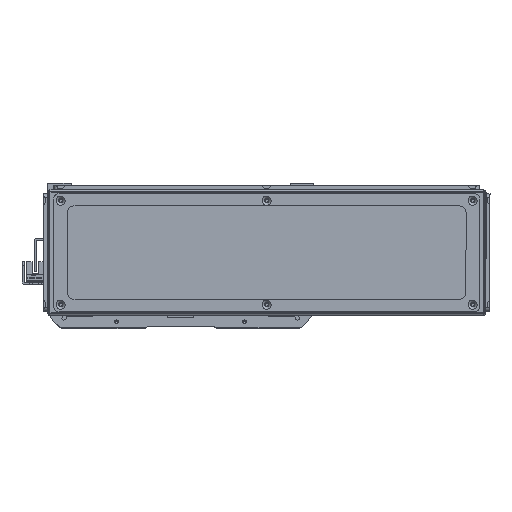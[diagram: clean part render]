
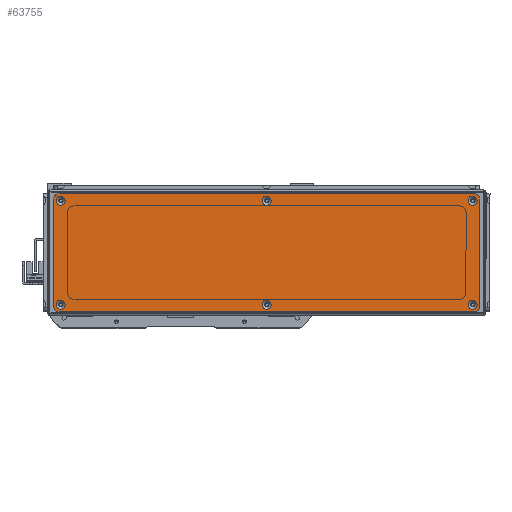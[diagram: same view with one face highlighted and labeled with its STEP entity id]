
A CAD part, front view. The second image highlights one B-rep face of the part: STEP entity #63755.
In plain terms, the highlighted planar face has unit normal (0, -1, 0).
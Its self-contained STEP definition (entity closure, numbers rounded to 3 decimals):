
#629=FACE_BOUND('',#11368,.T.);
#630=FACE_BOUND('',#11369,.T.);
#631=FACE_BOUND('',#11370,.T.);
#632=FACE_BOUND('',#11371,.T.);
#633=FACE_BOUND('',#11372,.T.);
#634=FACE_BOUND('',#11373,.T.);
#3693=PLANE('',#68543);
#7742=FACE_OUTER_BOUND('',#11367,.T.);
#11367=EDGE_LOOP('',(#59351,#59352,#59353,#59354,#59355,#59356,#59357,#59358));
#11368=EDGE_LOOP('',(#59359));
#11369=EDGE_LOOP('',(#59360));
#11370=EDGE_LOOP('',(#59361));
#11371=EDGE_LOOP('',(#59362));
#11372=EDGE_LOOP('',(#59363));
#11373=EDGE_LOOP('',(#59364));
#18565=LINE('',#104948,#25880);
#18566=LINE('',#104952,#25881);
#18567=LINE('',#104956,#25882);
#18568=LINE('',#104959,#25883);
#25880=VECTOR('',#84309,10.);
#25881=VECTOR('',#84312,10.);
#25882=VECTOR('',#84315,10.);
#25883=VECTOR('',#84318,10.);
#27492=CIRCLE('',#68511,3.45);
#27495=CIRCLE('',#68516,3.45);
#27498=CIRCLE('',#68521,3.45);
#27501=CIRCLE('',#68526,3.45);
#27504=CIRCLE('',#68531,3.45);
#27507=CIRCLE('',#68536,3.45);
#27510=CIRCLE('',#68541,3.);
#27512=CIRCLE('',#68544,3.);
#27513=CIRCLE('',#68545,3.);
#27514=CIRCLE('',#68546,3.);
#33264=VERTEX_POINT('',#104878);
#33267=VERTEX_POINT('',#104888);
#33270=VERTEX_POINT('',#104898);
#33273=VERTEX_POINT('',#104908);
#33276=VERTEX_POINT('',#104918);
#33279=VERTEX_POINT('',#104928);
#33282=VERTEX_POINT('',#104938);
#33283=VERTEX_POINT('',#104939);
#33286=VERTEX_POINT('',#104947);
#33287=VERTEX_POINT('',#104949);
#33288=VERTEX_POINT('',#104951);
#33289=VERTEX_POINT('',#104953);
#33290=VERTEX_POINT('',#104955);
#33291=VERTEX_POINT('',#104957);
#42015=EDGE_CURVE('',#33264,#33264,#27492,.T.);
#42020=EDGE_CURVE('',#33267,#33267,#27495,.T.);
#42025=EDGE_CURVE('',#33270,#33270,#27498,.T.);
#42030=EDGE_CURVE('',#33273,#33273,#27501,.T.);
#42035=EDGE_CURVE('',#33276,#33276,#27504,.T.);
#42040=EDGE_CURVE('',#33279,#33279,#27507,.T.);
#42045=EDGE_CURVE('',#33282,#33283,#27510,.T.);
#42049=EDGE_CURVE('',#33282,#33286,#18565,.T.);
#42050=EDGE_CURVE('',#33287,#33286,#27512,.T.);
#42051=EDGE_CURVE('',#33287,#33288,#18566,.T.);
#42052=EDGE_CURVE('',#33289,#33288,#27513,.T.);
#42053=EDGE_CURVE('',#33289,#33290,#18567,.T.);
#42054=EDGE_CURVE('',#33291,#33290,#27514,.T.);
#42055=EDGE_CURVE('',#33291,#33283,#18568,.T.);
#59351=ORIENTED_EDGE('',*,*,#42045,.F.);
#59352=ORIENTED_EDGE('',*,*,#42049,.T.);
#59353=ORIENTED_EDGE('',*,*,#42050,.F.);
#59354=ORIENTED_EDGE('',*,*,#42051,.T.);
#59355=ORIENTED_EDGE('',*,*,#42052,.F.);
#59356=ORIENTED_EDGE('',*,*,#42053,.T.);
#59357=ORIENTED_EDGE('',*,*,#42054,.F.);
#59358=ORIENTED_EDGE('',*,*,#42055,.T.);
#59359=ORIENTED_EDGE('',*,*,#42015,.T.);
#59360=ORIENTED_EDGE('',*,*,#42020,.T.);
#59361=ORIENTED_EDGE('',*,*,#42025,.T.);
#59362=ORIENTED_EDGE('',*,*,#42030,.T.);
#59363=ORIENTED_EDGE('',*,*,#42035,.T.);
#59364=ORIENTED_EDGE('',*,*,#42040,.T.);
#63755=ADVANCED_FACE('',(#7742,#629,#630,#631,#632,#633,#634),#3693,.T.);
#68511=AXIS2_PLACEMENT_3D('',#104879,#84229,#84230);
#68516=AXIS2_PLACEMENT_3D('',#104889,#84241,#84242);
#68521=AXIS2_PLACEMENT_3D('',#104899,#84253,#84254);
#68526=AXIS2_PLACEMENT_3D('',#104909,#84265,#84266);
#68531=AXIS2_PLACEMENT_3D('',#104919,#84277,#84278);
#68536=AXIS2_PLACEMENT_3D('',#104929,#84289,#84290);
#68541=AXIS2_PLACEMENT_3D('',#104940,#84301,#84302);
#68543=AXIS2_PLACEMENT_3D('',#104946,#84307,#84308);
#68544=AXIS2_PLACEMENT_3D('',#104950,#84310,#84311);
#68545=AXIS2_PLACEMENT_3D('',#104954,#84313,#84314);
#68546=AXIS2_PLACEMENT_3D('',#104958,#84316,#84317);
#84229=DIRECTION('center_axis',(0.,1.,0.));
#84230=DIRECTION('ref_axis',(1.,0.,0.));
#84241=DIRECTION('center_axis',(0.,1.,0.));
#84242=DIRECTION('ref_axis',(1.,0.,0.));
#84253=DIRECTION('center_axis',(0.,1.,0.));
#84254=DIRECTION('ref_axis',(1.,0.,0.));
#84265=DIRECTION('center_axis',(0.,1.,0.));
#84266=DIRECTION('ref_axis',(1.,0.,0.));
#84277=DIRECTION('center_axis',(0.,1.,0.));
#84278=DIRECTION('ref_axis',(1.,0.,0.));
#84289=DIRECTION('center_axis',(0.,1.,0.));
#84290=DIRECTION('ref_axis',(1.,0.,0.));
#84301=DIRECTION('center_axis',(0.,1.,0.));
#84302=DIRECTION('ref_axis',(-0.707,0.,0.707));
#84307=DIRECTION('center_axis',(0.,-1.,0.));
#84308=DIRECTION('ref_axis',(0.,0.,-1.));
#84309=DIRECTION('',(0.,0.,-1.));
#84310=DIRECTION('center_axis',(0.,1.,0.));
#84311=DIRECTION('ref_axis',(-0.707,0.,-0.707));
#84312=DIRECTION('',(1.,0.,0.));
#84313=DIRECTION('center_axis',(0.,1.,0.));
#84314=DIRECTION('ref_axis',(0.707,0.,-0.707));
#84315=DIRECTION('',(0.,0.,1.));
#84316=DIRECTION('center_axis',(0.,1.,0.));
#84317=DIRECTION('ref_axis',(0.707,0.,0.707));
#84318=DIRECTION('',(-1.,0.,0.));
#104878=CARTESIAN_POINT('',(151.05,-1.5,39.));
#104879=CARTESIAN_POINT('Origin',(154.5,-1.5,39.));
#104888=CARTESIAN_POINT('',(-3.45,-1.5,39.));
#104889=CARTESIAN_POINT('Origin',(0.,-1.5,39.));
#104898=CARTESIAN_POINT('',(-157.95,-1.5,39.));
#104899=CARTESIAN_POINT('Origin',(-154.5,-1.5,39.));
#104908=CARTESIAN_POINT('',(-157.95,-1.5,-39.));
#104909=CARTESIAN_POINT('Origin',(-154.5,-1.5,-39.));
#104918=CARTESIAN_POINT('',(-3.45,-1.5,-39.));
#104919=CARTESIAN_POINT('Origin',(0.,-1.5,-39.));
#104928=CARTESIAN_POINT('',(151.05,-1.5,-39.));
#104929=CARTESIAN_POINT('Origin',(154.5,-1.5,-39.));
#104938=CARTESIAN_POINT('',(-159.5,-1.5,41.));
#104939=CARTESIAN_POINT('',(-156.5,-1.5,44.));
#104940=CARTESIAN_POINT('Origin',(-156.5,-1.5,41.));
#104946=CARTESIAN_POINT('Origin',(0.,-1.5,0.));
#104947=CARTESIAN_POINT('',(-159.5,-1.5,-41.));
#104948=CARTESIAN_POINT('',(-159.5,-1.5,44.));
#104949=CARTESIAN_POINT('',(-156.5,-1.5,-44.));
#104950=CARTESIAN_POINT('Origin',(-156.5,-1.5,-41.));
#104951=CARTESIAN_POINT('',(156.5,-1.5,-44.));
#104952=CARTESIAN_POINT('',(-159.5,-1.5,-44.));
#104953=CARTESIAN_POINT('',(159.5,-1.5,-41.));
#104954=CARTESIAN_POINT('Origin',(156.5,-1.5,-41.));
#104955=CARTESIAN_POINT('',(159.5,-1.5,41.));
#104956=CARTESIAN_POINT('',(159.5,-1.5,-44.));
#104957=CARTESIAN_POINT('',(156.5,-1.5,44.));
#104958=CARTESIAN_POINT('Origin',(156.5,-1.5,41.));
#104959=CARTESIAN_POINT('',(159.5,-1.5,44.));
